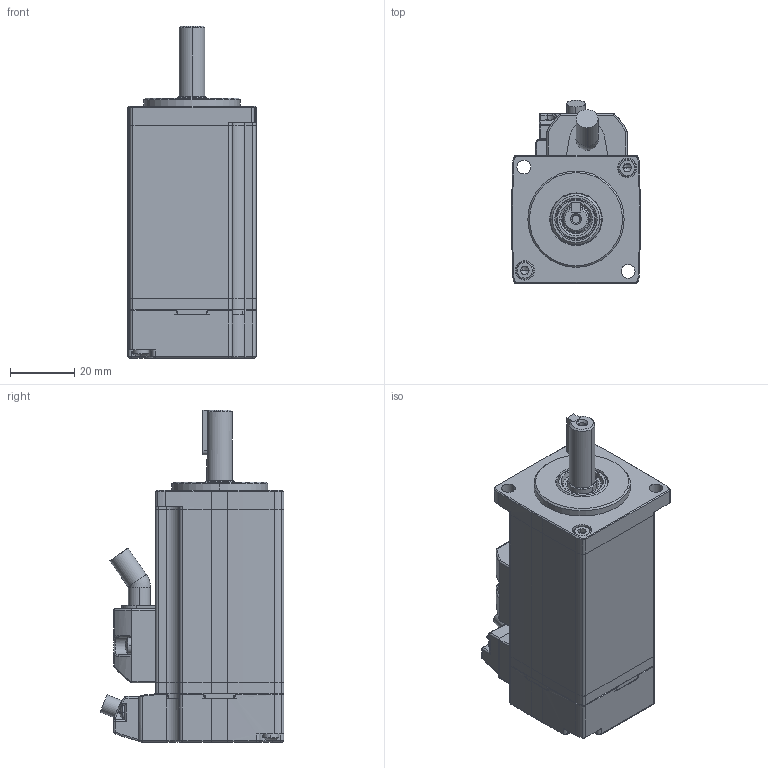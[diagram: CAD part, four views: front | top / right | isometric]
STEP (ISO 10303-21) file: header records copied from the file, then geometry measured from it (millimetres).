
FILE_DESCRIPTION (( 'STEP AP203' ), '1' );
FILE_NAME ('EM3A01A 非抱闸（永磁交流伺服电动机外形图）.STEP', '2018-12-26T02:50:25', ( '' ), ( '' ), 'SwSTEP 2.0', 'SolidWorks 2016', '' );
FILE_SCHEMA (( 'CONFIG_CONTROL_DESIGN' ));
Length unit declared in the file: millimetre
Products named in the file (1): EM3A01A 非抱闸（永磁交流伺服电动机外形图）
Bounding box: 40 x 57.22 x 103.5 mm (x, y, z)
Surface area: 23414.1 mm2 (no closed solid volume)
Topology: 0 solids, 24 shells, 519 faces, 1526 edges, 996 vertices
Faces by surface type: cylinder 199, plane 187, cone 45, torus 40, sphere 36, bspline 12
Entity records: 17882 total; most frequent: CARTESIAN_POINT 3915, DIRECTION 3185, ORIENTED_EDGE 2608, EDGE_CURVE 1509, AXIS2_PLACEMENT_3D 1267, VERTEX_POINT 996, CIRCLE 759, VECTOR 651
